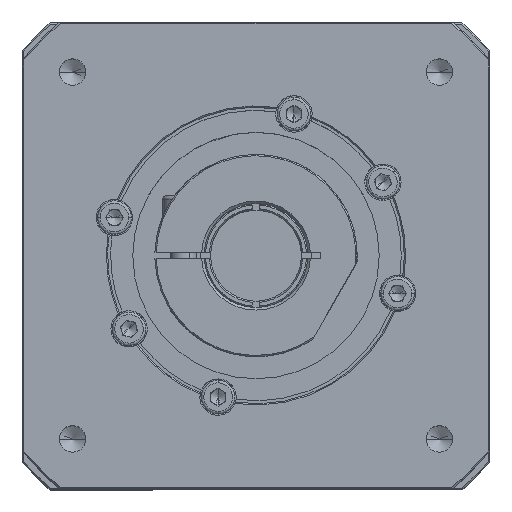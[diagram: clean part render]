
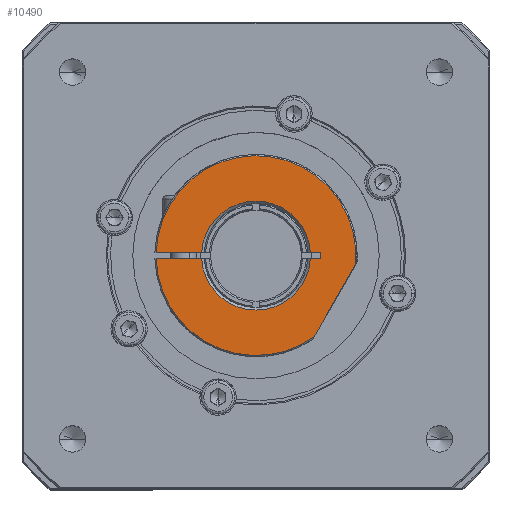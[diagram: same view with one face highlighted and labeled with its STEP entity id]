
A CAD part, top view. The second image highlights one B-rep face of the part: STEP entity #10490.
In plain terms, the highlighted planar face has unit normal (0, 0, 1) as drawn and (1, 0, 0) by its records, which use the part's own axes.
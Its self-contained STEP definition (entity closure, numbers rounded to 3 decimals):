
#134 = VECTOR ( 'NONE', #1442, 1000. ) ;
#372 = VERTEX_POINT ( 'NONE', #6413 ) ;
#730 = VECTOR ( 'NONE', #12238, 1000. ) ;
#737 = LINE ( 'NONE', #13044, #22645 ) ;
#1093 = CARTESIAN_POINT ( 'NONE',  ( 10.5, -31.39, -22.291 ) ) ;
#1094 = CARTESIAN_POINT ( 'NONE',  ( 10.5, 0., 0. ) ) ;
#1355 = CARTESIAN_POINT ( 'NONE',  ( 10.5, 1.25, 20.963 ) ) ;
#1442 = DIRECTION ( 'NONE',  ( 0., 0., 1. ) ) ;
#1455 = AXIS2_PLACEMENT_3D ( 'NONE', #1094, #2909, #16732 ) ;
#1731 = EDGE_CURVE ( 'NONE', #372, #3431, #10389, .T. ) ;
#2061 = DIRECTION ( 'NONE',  ( 0., 0., 1. ) ) ;
#2537 = ORIENTED_EDGE ( 'NONE', *, *, #5145, .T. ) ;
#2909 = DIRECTION ( 'NONE',  ( 1., 0., 0. ) ) ;
#2998 = AXIS2_PLACEMENT_3D ( 'NONE', #11509, #14856, #20125 ) ;
#3431 = VERTEX_POINT ( 'NONE', #13842 ) ;
#3579 = EDGE_CURVE ( 'NONE', #3431, #15570, #18760, .T. ) ;
#3834 = DIRECTION ( 'NONE',  ( 1., 0., 0. ) ) ;
#3910 = CARTESIAN_POINT ( 'NONE',  ( 10.5, 0., 0. ) ) ;
#4329 = CARTESIAN_POINT ( 'NONE',  ( 10.5, -3.61, -38.33 ) ) ;
#4486 = PLANE ( 'NONE',  #2998 ) ;
#4610 = CARTESIAN_POINT ( 'NONE',  ( 10.5, 0., 0. ) ) ;
#4964 = CARTESIAN_POINT ( 'NONE',  ( 10.5, 0., 0. ) ) ;
#4993 = DIRECTION ( 'NONE',  ( -1., 0., 0. ) ) ;
#5084 = ORIENTED_EDGE ( 'NONE', *, *, #3579, .T. ) ;
#5145 = EDGE_CURVE ( 'NONE', #18493, #372, #9637, .T. ) ;
#5528 = CARTESIAN_POINT ( 'NONE',  ( 10.5, -1.25, 20.963 ) ) ;
#5697 = CARTESIAN_POINT ( 'NONE',  ( 10.5, 0., -25. ) ) ;
#5736 = VECTOR ( 'NONE', #13337, 1000. ) ;
#5952 = DIRECTION ( 'NONE',  ( 0., 0.866, -0.5 ) ) ;
#6102 = VERTEX_POINT ( 'NONE', #5528 ) ;
#6393 = CIRCLE ( 'NONE', #17211, 21. ) ;
#6413 = CARTESIAN_POINT ( 'NONE',  ( 10.5, 1.25, -25. ) ) ;
#6506 = CARTESIAN_POINT ( 'NONE',  ( 10.5, -1.25, 0. ) ) ;
#6973 = ORIENTED_EDGE ( 'NONE', *, *, #19167, .T. ) ;
#7974 = ORIENTED_EDGE ( 'NONE', *, *, #1731, .T. ) ;
#8385 = CARTESIAN_POINT ( 'NONE',  ( 10.5, 1.25, 0. ) ) ;
#8390 = DIRECTION ( 'NONE',  ( 0., 0., -1. ) ) ;
#8535 = EDGE_LOOP ( 'NONE', ( #5084, #14556, #14375, #13296, #6973, #20648, #21403, #9863, #2537, #7974 ) ) ;
#8564 = VECTOR ( 'NONE', #5952, 1000. ) ;
#8641 = CARTESIAN_POINT ( 'NONE',  ( 10.5, -1.25, 0. ) ) ;
#8973 = VERTEX_POINT ( 'NONE', #9896 ) ;
#9138 = CIRCLE ( 'NONE', #11701, 21. ) ;
#9184 = VERTEX_POINT ( 'NONE', #13647 ) ;
#9637 = LINE ( 'NONE', #8385, #12090 ) ;
#9863 = ORIENTED_EDGE ( 'NONE', *, *, #14788, .T. ) ;
#9896 = CARTESIAN_POINT ( 'NONE',  ( 10.5, -31.39, -22.291 ) ) ;
#10141 = EDGE_CURVE ( 'NONE', #6102, #9184, #14086, .T. ) ;
#10389 = LINE ( 'NONE', #5697, #5736 ) ;
#10490 = ADVANCED_FACE ( 'NONE', ( #10522 ), #4486, .T. ) ;
#10522 = FACE_OUTER_BOUND ( 'NONE', #8535, .T. ) ;
#11028 = LINE ( 'NONE', #1093, #8564 ) ;
#11406 = VERTEX_POINT ( 'NONE', #1355 ) ;
#11509 = CARTESIAN_POINT ( 'NONE',  ( 10.5, 0., 0. ) ) ;
#11701 = AXIS2_PLACEMENT_3D ( 'NONE', #4964, #12147, #8390 ) ;
#12090 = VECTOR ( 'NONE', #18846, 1000. ) ;
#12147 = DIRECTION ( 'NONE',  ( -1., 0., 0. ) ) ;
#12238 = DIRECTION ( 'NONE',  ( 0., 0., 1. ) ) ;
#12431 = CARTESIAN_POINT ( 'NONE',  ( 10.5, -1.25, -20.963 ) ) ;
#12839 = EDGE_CURVE ( 'NONE', #13477, #21467, #16065, .T. ) ;
#13044 = CARTESIAN_POINT ( 'NONE',  ( 10.5, 1.25, 0. ) ) ;
#13296 = ORIENTED_EDGE ( 'NONE', *, *, #15797, .T. ) ;
#13337 = DIRECTION ( 'NONE',  ( 0., -1., 0. ) ) ;
#13477 = VERTEX_POINT ( 'NONE', #4329 ) ;
#13505 = EDGE_CURVE ( 'NONE', #21467, #11406, #737, .T. ) ;
#13647 = CARTESIAN_POINT ( 'NONE',  ( 10.5, -1.25, 38.48 ) ) ;
#13842 = CARTESIAN_POINT ( 'NONE',  ( 10.5, -1.25, -25. ) ) ;
#14086 = LINE ( 'NONE', #6506, #134 ) ;
#14375 = ORIENTED_EDGE ( 'NONE', *, *, #10141, .T. ) ;
#14556 = ORIENTED_EDGE ( 'NONE', *, *, #19140, .T. ) ;
#14788 = EDGE_CURVE ( 'NONE', #11406, #18493, #9138, .T. ) ;
#14856 = DIRECTION ( 'NONE',  ( 1., 0., 0. ) ) ;
#15119 = CIRCLE ( 'NONE', #1455, 38.5 ) ;
#15570 = VERTEX_POINT ( 'NONE', #12431 ) ;
#15797 = EDGE_CURVE ( 'NONE', #9184, #8973, #15119, .T. ) ;
#16065 = CIRCLE ( 'NONE', #18080, 38.5 ) ;
#16732 = DIRECTION ( 'NONE',  ( 0., 0., 1. ) ) ;
#17211 = AXIS2_PLACEMENT_3D ( 'NONE', #4610, #4993, #20177 ) ;
#18080 = AXIS2_PLACEMENT_3D ( 'NONE', #3910, #3834, #2061 ) ;
#18493 = VERTEX_POINT ( 'NONE', #19755 ) ;
#18760 = LINE ( 'NONE', #8641, #730 ) ;
#18846 = DIRECTION ( 'NONE',  ( 0., 0., -1. ) ) ;
#18930 = CARTESIAN_POINT ( 'NONE',  ( 10.5, 1.25, 38.48 ) ) ;
#19140 = EDGE_CURVE ( 'NONE', #15570, #6102, #6393, .T. ) ;
#19167 = EDGE_CURVE ( 'NONE', #8973, #13477, #11028, .T. ) ;
#19755 = CARTESIAN_POINT ( 'NONE',  ( 10.5, 1.25, -20.963 ) ) ;
#20125 = DIRECTION ( 'NONE',  ( 0., 0., -1. ) ) ;
#20177 = DIRECTION ( 'NONE',  ( 0., 0., -1. ) ) ;
#20648 = ORIENTED_EDGE ( 'NONE', *, *, #12839, .T. ) ;
#21403 = ORIENTED_EDGE ( 'NONE', *, *, #13505, .T. ) ;
#21467 = VERTEX_POINT ( 'NONE', #18930 ) ;
#21847 = DIRECTION ( 'NONE',  ( 0., 0., -1. ) ) ;
#22645 = VECTOR ( 'NONE', #21847, 1000. ) ;
